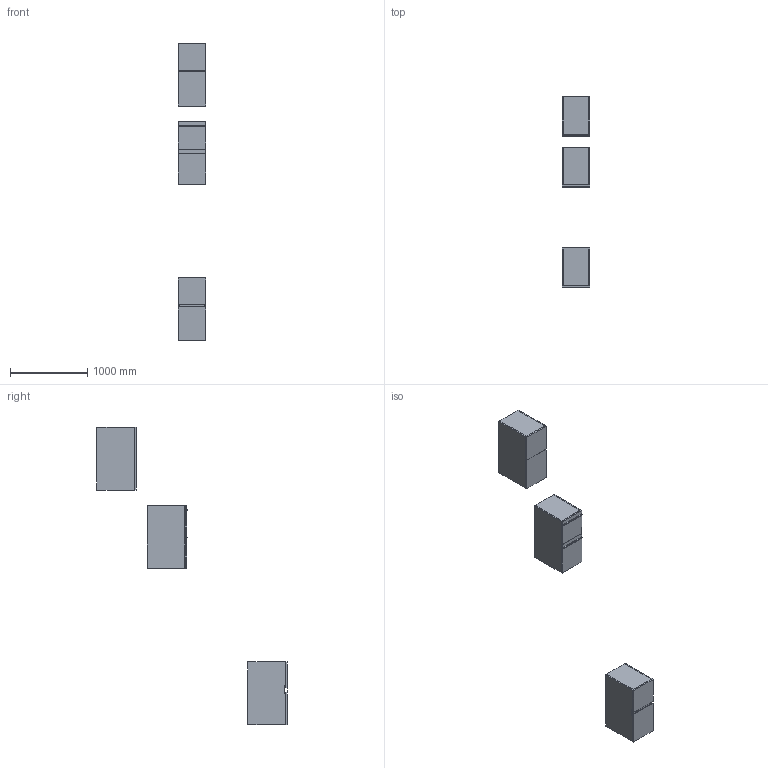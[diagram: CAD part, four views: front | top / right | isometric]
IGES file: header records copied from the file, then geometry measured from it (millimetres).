
Start section: Data from Parasolid IGES Translator 19.0.9, Copyright(c) 2006 Siemens PL M Software. All Rights Reserved.
Global section: file name: noorth-SI-H 81,2 D 51 W 36_9727.igs; native system: By Siemens PLM Incorporated; preprocessor: XPlus GENERIC/IGES 19.0.9; author: Noname; organization: Noname; date: 20200601.141328; units: metre
Bounding box: 360 x 2458 x 3842 mm (x, y, z)
Volume: 71912619.6 mm3; surface area: 10631317.8 mm2
Topology: 24 solids, 24 shells, 248 faces, 544 edges, 324 vertices
Faces by surface type: plane 164, extrusion 36, bspline 32, cylinder 16
